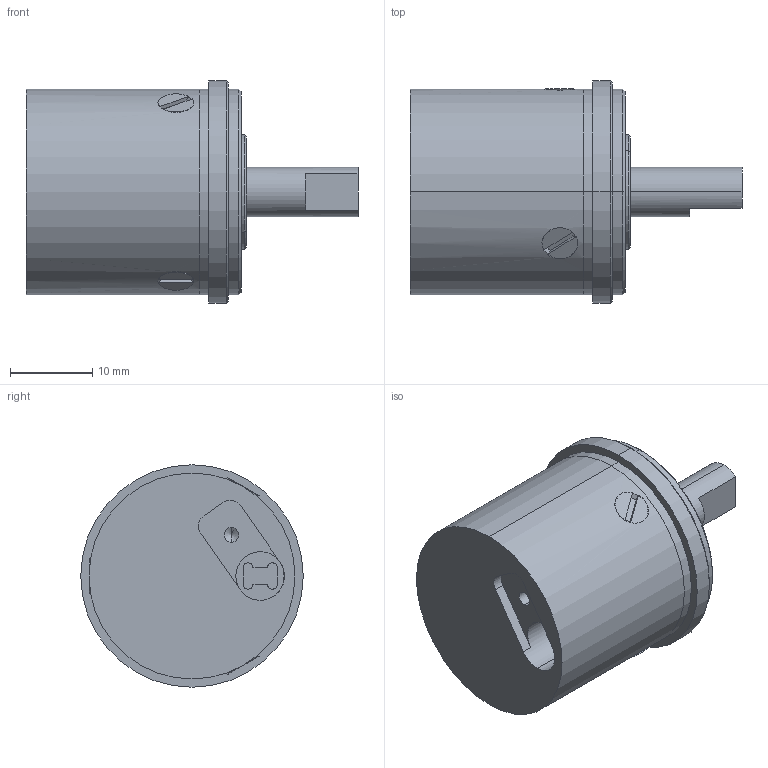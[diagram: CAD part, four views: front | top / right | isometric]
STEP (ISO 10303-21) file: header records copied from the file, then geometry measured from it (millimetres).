
FILE_DESCRIPTION (( 'STEP AP214' ), '1' );
FILE_NAME ('MR431.STEP', '2018-06-13T22:28:53', ( '' ), ( '' ), 'SwSTEP 2.0', 'SolidWorks 2018', '' );
FILE_SCHEMA (( 'AUTOMOTIVE_DESIGN' ));
Length unit declared in the file: inch
Products named in the file (1): MR431
Bounding box: 40.3 x 27 x 27 mm (x, y, z)
Volume: 11421.7 mm3; surface area: 8230.2 mm2
Topology: 7 solids, 7 shells, 204 faces, 457 edges, 280 vertices
Faces by surface type: cylinder 91, plane 57, cone 48, torus 6, sphere 2
Entity records: 8737 total; most frequent: CARTESIAN_POINT 1336, DIRECTION 1053, ORIENTED_EDGE 886, EDGE_CURVE 443, AXIS2_PLACEMENT_3D 437, VERTEX_POINT 280, EDGE_LOOP 243, CIRCLE 232
